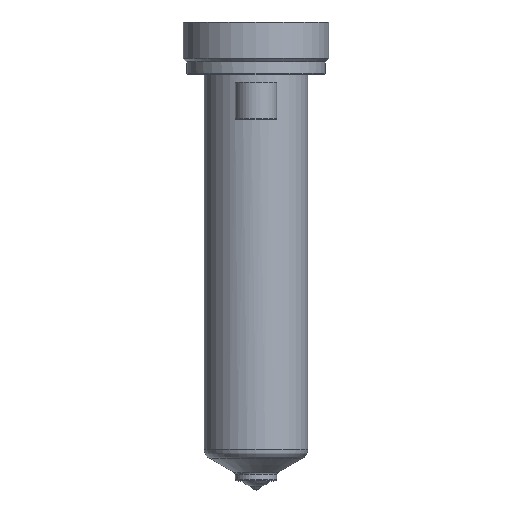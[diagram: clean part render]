
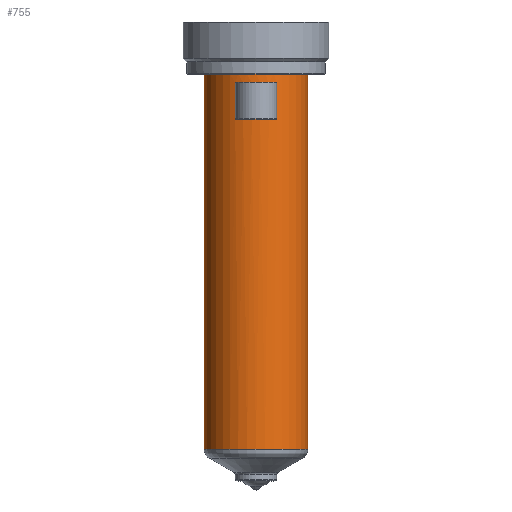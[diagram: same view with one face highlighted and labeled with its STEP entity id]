
A CAD part, top view. The second image highlights one B-rep face of the part: STEP entity #755.
In plain terms, the highlighted cylindrical face has radius 15 mm (diameter 30 mm), a partial arc.
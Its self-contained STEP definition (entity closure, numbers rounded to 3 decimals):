
#161=DIRECTION('',(0.,-1.,0.));
#162=VECTOR('',#161,108.226);
#163=CARTESIAN_POINT('',(15.,0.,0.));
#164=LINE('',#163,#162);
#165=CARTESIAN_POINT('',(0.,-108.226,0.));
#166=DIRECTION('',(0.,1.,0.));
#167=DIRECTION('',(-1.,0.,0.));
#168=AXIS2_PLACEMENT_3D('',#165,#166,#167);
#170=DIRECTION('',(0.,1.,0.));
#171=VECTOR('',#170,108.226);
#172=CARTESIAN_POINT('',(-15.,-108.226,0.));
#173=LINE('',#172,#171);
#174=CARTESIAN_POINT('',(0.,0.,0.));
#175=DIRECTION('',(0.,1.,0.));
#176=DIRECTION('',(-1.,0.,0.));
#177=AXIS2_PLACEMENT_3D('',#174,#175,#176);
#341=DIRECTION('',(0.,-1.,0.));
#342=VECTOR('',#341,10.5);
#343=CARTESIAN_POINT('',(-6.,-2.5,13.748));
#344=LINE('',#343,#342);
#353=CARTESIAN_POINT('',(0.,-13.,0.));
#354=DIRECTION('',(0.,1.,0.));
#355=DIRECTION('',(-0.4,0.,0.917));
#356=AXIS2_PLACEMENT_3D('',#353,#354,#355);
#367=DIRECTION('',(0.,-1.,0.));
#368=VECTOR('',#367,10.5);
#369=CARTESIAN_POINT('',(6.,-2.5,13.748));
#370=LINE('',#369,#368);
#388=CARTESIAN_POINT('',(0.,-2.5,0.));
#389=DIRECTION('',(0.,-1.,0.));
#390=DIRECTION('',(0.4,0.,0.917));
#391=AXIS2_PLACEMENT_3D('',#388,#389,#390);
#476=CARTESIAN_POINT('',(-15.,0.,0.));
#477=CARTESIAN_POINT('',(15.,0.,0.));
#478=VERTEX_POINT('',#476);
#479=VERTEX_POINT('',#477);
#488=CARTESIAN_POINT('',(6.,-2.5,13.748));
#489=VERTEX_POINT('',#488);
#490=CARTESIAN_POINT('',(-6.,-2.5,13.748));
#491=VERTEX_POINT('',#490);
#500=CARTESIAN_POINT('',(15.,-108.226,0.));
#501=VERTEX_POINT('',#500);
#510=CARTESIAN_POINT('',(-15.,-108.226,0.));
#511=VERTEX_POINT('',#510);
#512=CARTESIAN_POINT('',(6.,-13.,13.748));
#513=VERTEX_POINT('',#512);
#514=CARTESIAN_POINT('',(-6.,-13.,13.748));
#515=VERTEX_POINT('',#514);
#733=CARTESIAN_POINT('',(0.,16.4,0.));
#734=DIRECTION('',(0.,-1.,0.));
#735=DIRECTION('',(-1.,0.,0.));
#736=AXIS2_PLACEMENT_3D('',#733,#734,#735);
#737=CYLINDRICAL_SURFACE('',#736,15.);
#738=ORIENTED_EDGE('',*,*,#727,.T.);
#740=ORIENTED_EDGE('',*,*,#739,.F.);
#741=ORIENTED_EDGE('',*,*,#723,.T.);
#742=ORIENTED_EDGE('',*,*,#713,.T.);
#743=EDGE_LOOP('',(#738,#740,#741,#742));
#744=FACE_OUTER_BOUND('',#743,.F.);
#746=ORIENTED_EDGE('',*,*,#745,.T.);
#748=ORIENTED_EDGE('',*,*,#747,.T.);
#750=ORIENTED_EDGE('',*,*,#749,.F.);
#752=ORIENTED_EDGE('',*,*,#751,.T.);
#753=EDGE_LOOP('',(#746,#748,#750,#752));
#754=FACE_BOUND('',#753,.F.);
#755=ADVANCED_FACE('',(#744,#754),#737,.T.);
#169=CIRCLE('',#168,15.);
#178=CIRCLE('',#177,15.);
#357=CIRCLE('',#356,15.);
#392=CIRCLE('',#391,15.);
#713=EDGE_CURVE('',#478,#479,#178,.T.);
#723=EDGE_CURVE('',#511,#478,#173,.T.);
#727=EDGE_CURVE('',#479,#501,#164,.T.);
#739=EDGE_CURVE('',#511,#501,#169,.T.);
#745=EDGE_CURVE('',#491,#515,#344,.T.);
#747=EDGE_CURVE('',#515,#513,#357,.T.);
#749=EDGE_CURVE('',#489,#513,#370,.T.);
#751=EDGE_CURVE('',#489,#491,#392,.T.);
